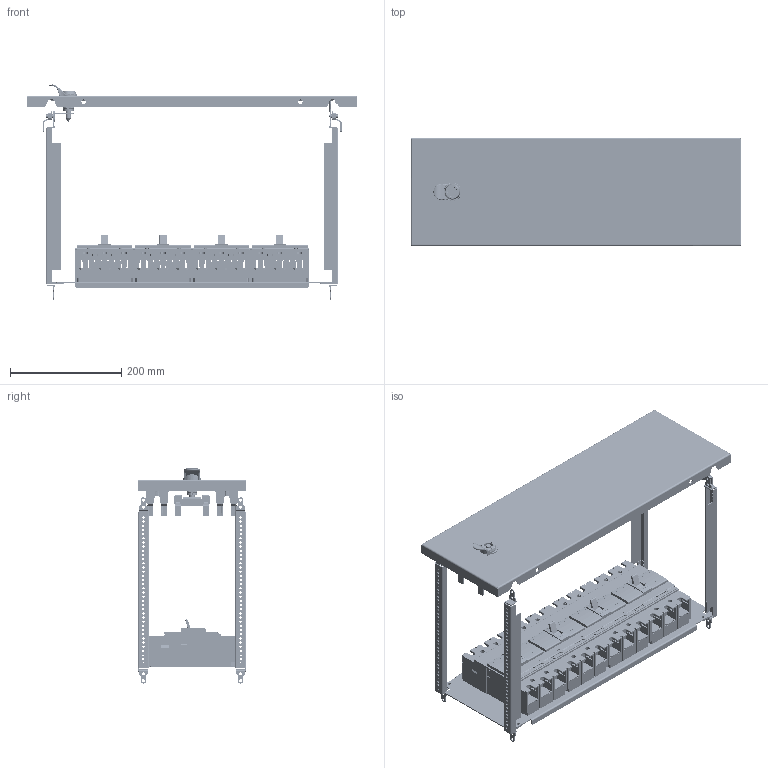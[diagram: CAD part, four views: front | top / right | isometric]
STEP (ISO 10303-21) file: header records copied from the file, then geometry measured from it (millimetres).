
FILE_DESCRIPTION(('CAx-IF Rec.Pracs.---Model Styling and Organization---1.2---2011-12-15','CAx-IF Rec.Pracs.---Geometric and Assembly Validation Properties---4.1---2014-06-16','CAx-IF Rec.Pracs.---PMI Polyline Presentation---2.0---2013-05-24'),'2;1');
FILE_NAME('R5PKEB7V61113.stp','2021-07-29T02:17:05+03:00',(''),(''),'STEP Interface 4.4 by CT CoreTechnologie','3D_Evolution4.4 by CT CoreTechnologie','');
FILE_SCHEMA(('AUTOMOTIVE_DESIGN { 1 0 10303 214 1 1 1 1 }'));
Length unit declared in the file: millimetre
Products named in the file (1): R5PKEB7V61113
Bounding box: 594 x 195 x 386.9 mm (x, y, z)
Surface area: 1213198.3 mm2 (no closed solid volume)
Topology: 0 solids, 140 shells, 5678 faces, 21304 edges, 15205 vertices
Faces by surface type: plane 3133, cylinder 2101, bspline 444
Entity records: 238679 total; most frequent: CARTESIAN_POINT 60172, DIRECTION 36186, ORIENTED_EDGE 35016, EDGE_CURVE 21229, VERTEX_POINT 15205, VECTOR 15148, LINE 15148, AXIS2_PLACEMENT_3D 10519
